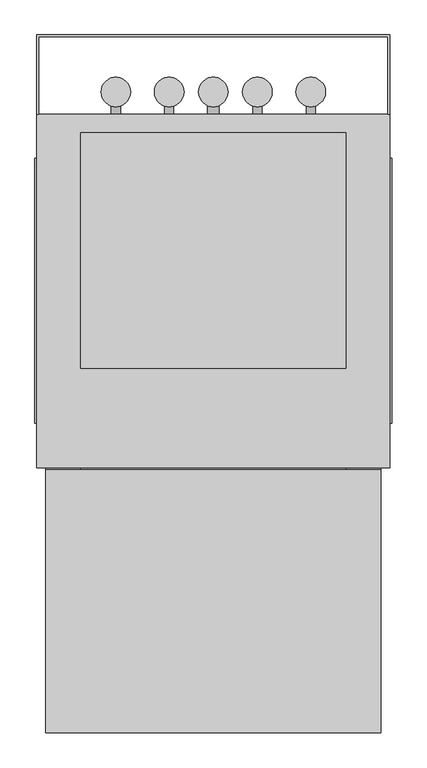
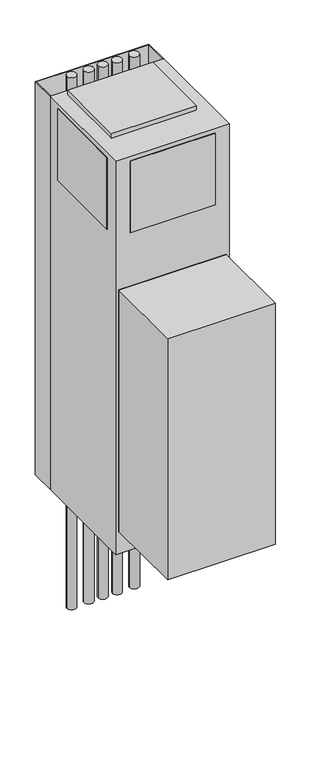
"""IFC4 building model written with IfcOpenShell, lengths in millimetres: proxy geometry, Exposed_Modular_Fan_Coil_Unit_-_MXY_-_IEC_-_4-Pipe_-_WithRisers_2022 : Size 10 - 277v/60Hz/1Ph - 4/1 Coil."""

from ifc_helpers import new_model, si_unit, point, frame, frame_2d, origin, origin_with_axes, place, context, project, spatial, polyline, circle_curve, trimmed, segment, composite_curve, outline, extrude, source, transform, mapped, element, save


def mechanical_equipment_87055151(model_context):
    return source(origin(), model_context, "Body", "SweptSolid", [
        extrude(outline(polyline([(1356.1480703, 630.3118862), (1346.2, 662.4852728), (1488.3709244, 662.4852728), (1465.3489183, 630.3118862), (1356.1480703, 630.3118862)])), frame((0.0, -371.475, 0.0), z_axis=(0.0, 1.0, 0.0), x_axis=(0.0, 0.0, 1.0)), (0.0, 0.0, 1.0), 3.175),
        extrude(outline(polyline([(1435.1473557, 669.2436058), (1431.9449632, 695.325), (1461.1738042, 695.325), (1469.2382193, 669.2436058), (1435.1473557, 669.2436058)])), frame((0.0, -371.475, 0.0), z_axis=(0.0, 1.0, 0.0), x_axis=(0.0, 0.0, 1.0)), (0.0, 0.0, 1.0), 3.175),
        extrude(outline(polyline([(1383.2838288, 695.325), (1379.6183279, 669.2436058), (1346.2, 669.2436058), (1354.8342372, 695.325), (1383.2838288, 695.325)])), frame((0.0, -371.475, 0.0), z_axis=(0.0, 1.0, 0.0), x_axis=(0.0, 0.0, 1.0)), (0.0, 0.0, 1.0), 3.175),
        extrude(outline(polyline([(1422.5989903, 695.325), (1424.8808166, 669.2436058), (1388.9432681, 669.2436058), (1391.6845331, 695.325), (1422.5989903, 695.325)])), frame((0.0, -371.475, 0.0), z_axis=(0.0, 1.0, 0.0), x_axis=(0.0, 0.0, 1.0)), (0.0, 0.0, 1.0), 3.175),
        extrude(outline(composite_curve([segment(trimmed(circle_curve(frame_2d((288.925, 282.575)), 25.4), [point((314.325, 282.575))], [point((263.525, 282.575))], False, "CARTESIAN"), True, "CONTINUOUS"), segment(trimmed(circle_curve(frame_2d((288.925, 282.575)), 25.4), [point((263.525, 282.575))], [point((314.325, 282.575))], False, "CARTESIAN"), True, "CONTINUOUS")], self_intersect=False)), frame((0.0, 0.0, -736.6), z_axis=(0.0, 0.0, 1.0), x_axis=(1.0, 0.0, 0.0)), (0.0, 0.0, 1.0), 3022.6),
        extrude(outline(composite_curve([segment(trimmed(circle_curve(frame_2d((381.0, 282.575)), 25.4), [point((406.4, 282.575))], [point((355.6, 282.575))], False, "CARTESIAN"), True, "CONTINUOUS"), segment(trimmed(circle_curve(frame_2d((381.0, 282.575)), 25.4), [point((355.6, 282.575))], [point((406.4, 282.575))], False, "CARTESIAN"), True, "CONTINUOUS")], self_intersect=False)), frame((0.0, 0.0, -736.6), z_axis=(0.0, 0.0, 1.0), x_axis=(1.0, 0.0, 0.0)), (0.0, 0.0, 1.0), 3022.6),
        extrude(outline(composite_curve([segment(trimmed(circle_curve(frame_2d((457.2, 282.575)), 25.4), [point((482.6, 282.575))], [point((431.8, 282.575))], False, "CARTESIAN"), True, "CONTINUOUS"), segment(trimmed(circle_curve(frame_2d((457.2, 282.575)), 25.4), [point((431.8, 282.575))], [point((482.6, 282.575))], False, "CARTESIAN"), True, "CONTINUOUS")], self_intersect=False)), frame((0.0, 0.0, -736.6), z_axis=(0.0, 0.0, 1.0), x_axis=(1.0, 0.0, 0.0)), (0.0, 0.0, 1.0), 3022.6),
        extrude(outline(composite_curve([segment(trimmed(circle_curve(frame_2d((533.4, 282.575)), 25.4), [point((558.8, 282.575))], [point((508.0, 282.575))], False, "CARTESIAN"), True, "CONTINUOUS"), segment(trimmed(circle_curve(frame_2d((533.4, 282.575)), 25.4), [point((508.0, 282.575))], [point((558.8, 282.575))], False, "CARTESIAN"), True, "CONTINUOUS")], self_intersect=False)), frame((0.0, 0.0, -736.6), z_axis=(0.0, 0.0, 1.0), x_axis=(1.0, 0.0, 0.0)), (0.0, 0.0, 1.0), 3022.6),
        extrude(outline(composite_curve([segment(trimmed(circle_curve(frame_2d((625.475, 282.575)), 25.4), [point((650.875, 282.575))], [point((600.075, 282.575))], False, "CARTESIAN"), True, "CONTINUOUS"), segment(trimmed(circle_curve(frame_2d((625.475, 282.575)), 25.4), [point((600.075, 282.575))], [point((650.875, 282.575))], False, "CARTESIAN"), True, "CONTINUOUS")], self_intersect=False)), frame((0.0, 0.0, -736.6), z_axis=(0.0, 0.0, 1.0), x_axis=(1.0, 0.0, 0.0)), (0.0, 0.0, 1.0), 3022.6),
        extrude(outline(polyline([(746.125, -368.3), (746.125, -822.325), (168.275, -822.325), (168.275, -368.3), (746.125, -368.3)])), frame((0.0, 0.0, 127.0), z_axis=(0.0, 0.0, 1.0), x_axis=(1.0, 0.0, 0.0)), (0.0, 0.0, 1.0), 1371.6),
        extrude(outline(polyline([(152.4, 381.0), (762.0, 381.0), (762.0, 244.475), (758.825, 244.475), (758.825, 377.825), (155.575, 377.825), (155.575, 244.475), (152.4, 244.475), (152.4, 381.0)])), origin_with_axes(), (0.0, 0.0, 1.0), 2235.2),
        extrude(outline(composite_curve([segment(trimmed(circle_curve(frame_2d((990.6, 533.4)), 7.9375), [point((990.6, 541.3375))], [point((990.6, 525.4625))], False, "CARTESIAN"), True, "CONTINUOUS"), segment(trimmed(circle_curve(frame_2d((990.6, 533.4)), 7.9375), [point((990.6, 525.4625))], [point((990.6, 541.3375))], False, "CARTESIAN"), True, "CONTINUOUS")], self_intersect=False)), frame((0.0, 244.475, 0.0), z_axis=(0.0, 1.0, 0.0), x_axis=(0.0, 0.0, 1.0)), (0.0, 0.0, 1.0), 25.4),
        extrude(outline(composite_curve([segment(trimmed(circle_curve(frame_2d((990.6, 381.0)), 7.9375), [point((990.6, 388.9375))], [point((990.6, 373.0625))], False, "CARTESIAN"), True, "CONTINUOUS"), segment(trimmed(circle_curve(frame_2d((990.6, 381.0)), 7.9375), [point((990.6, 373.0625))], [point((990.6, 388.9375))], False, "CARTESIAN"), True, "CONTINUOUS")], self_intersect=False)), frame((0.0, 244.475, 0.0), z_axis=(0.0, 1.0, 0.0), x_axis=(0.0, 0.0, 1.0)), (0.0, 0.0, 1.0), 25.4),
        extrude(outline(composite_curve([segment(trimmed(circle_curve(frame_2d((76.2, 457.2)), 9.525), [point((76.2, 466.725))], [point((76.2, 447.675))], False, "CARTESIAN"), True, "CONTINUOUS"), segment(trimmed(circle_curve(frame_2d((76.2, 457.2)), 9.525), [point((76.2, 447.675))], [point((76.2, 466.725))], False, "CARTESIAN"), True, "CONTINUOUS")], self_intersect=False)), frame((0.0, 244.475, 0.0), z_axis=(0.0, 1.0, 0.0), x_axis=(0.0, 0.0, 1.0)), (0.0, 0.0, 1.0), 25.4),
        extrude(outline(composite_curve([segment(trimmed(circle_curve(frame_2d((990.6, 625.475)), 7.9375), [point((990.6, 633.4125))], [point((990.6, 617.5375))], False, "CARTESIAN"), True, "CONTINUOUS"), segment(trimmed(circle_curve(frame_2d((990.6, 625.475)), 7.9375), [point((990.6, 617.5375))], [point((990.6, 633.4125))], False, "CARTESIAN"), True, "CONTINUOUS")], self_intersect=False)), frame((0.0, 244.475, 0.0), z_axis=(0.0, 1.0, 0.0), x_axis=(0.0, 0.0, 1.0)), (0.0, 0.0, 1.0), 25.4),
        extrude(outline(composite_curve([segment(trimmed(circle_curve(frame_2d((990.6, 288.925)), 7.9375), [point((990.6, 296.8625))], [point((990.6, 280.9875))], False, "CARTESIAN"), True, "CONTINUOUS"), segment(trimmed(circle_curve(frame_2d((990.6, 288.925)), 7.9375), [point((990.6, 280.9875))], [point((990.6, 296.8625))], False, "CARTESIAN"), True, "CONTINUOUS")], self_intersect=False)), frame((0.0, 244.475, 0.0), z_axis=(0.0, 1.0, 0.0), x_axis=(0.0, 0.0, 1.0)), (0.0, 0.0, 1.0), 25.4),
        extrude(outline(polyline([(746.125, -368.3), (168.275, -368.3), (168.275, -365.125), (746.125, -365.125), (746.125, -368.3)])), frame((0.0, 0.0, 127.0), z_axis=(0.0, 0.0, 1.0), x_axis=(1.0, 0.0, 0.0)), (0.0, 0.0, 1.0), 1371.6),
        extrude(outline(polyline([(765.175, 168.275), (765.175, -288.925), (762.0, -288.925), (762.0, 168.275), (765.175, 168.275)])), frame((0.0, 0.0, 1803.4), z_axis=(0.0, 0.0, 1.0), x_axis=(1.0, 0.0, 0.0)), (0.0, 0.0, 1.0), 406.4),
        extrude(outline(polyline([(149.225, -288.925), (149.225, 168.275), (152.4, 168.275), (152.4, -288.925), (149.225, -288.925)])), frame((0.0, 0.0, 1803.4), z_axis=(0.0, 0.0, 1.0), x_axis=(1.0, 0.0, 0.0)), (0.0, 0.0, 1.0), 406.4),
        extrude(outline(polyline([(685.8, -368.3), (228.6, -368.3), (228.6, -365.125), (685.8, -365.125), (685.8, -368.3)])), frame((0.0, 0.0, 1803.4), z_axis=(0.0, 0.0, 1.0), x_axis=(1.0, 0.0, 0.0)), (0.0, 0.0, 1.0), 406.4),
        extrude(outline(polyline([(685.8, 212.725), (685.8, -193.675), (228.6, -193.675), (228.6, 212.725), (685.8, 212.725)])), frame((0.0, 0.0, 2235.2), z_axis=(0.0, 0.0, 1.0), x_axis=(1.0, 0.0, 0.0)), (0.0, 0.0, 1.0), 25.4),
        extrude(outline(polyline([(762.0, 244.475), (762.0, -365.125), (152.4, -365.125), (152.4, 244.475), (762.0, 244.475)])), origin_with_axes(), (0.0, 0.0, 1.0), 2235.2),
    ])


if __name__ == "__main__":
    model = new_model("IFC4")
    model_context = context("Model", 3, world=origin())
    ifc_project = project(units=[si_unit("LENGTHUNIT", "METRE", prefix="MILLI")], contexts=[model_context])
    site = spatial("IfcSite", under=ifc_project)
    building = spatial("IfcBuilding", under=site)
    placement = place(None, origin())
    mechanical_equipment_shape = mechanical_equipment_87055151(model_context)
    element("IfcBuildingElementProxy", 1, Name="Exposed_Modular_Fan_Coil_Unit_-_MXY_-_IEC_-_4-Pipe_-_WithRisers_2022 : Size 10 - 277v/60Hz/1Ph - 4/1 Coil", ObjectType="Exposed_Modular_Fan_Coil_Unit_-_MXY_-_IEC_-_4-Pipe_-_WithRisers_2022 : Size 10 - 277v/60Hz/1Ph - 4/1 Coil", at=placement, inside=building, context=model_context, shape_type="MappedRepresentation", body=[
        mapped(mechanical_equipment_shape, transform((0.0, 0.0, 0.0), x_axis=(1.0, 0.0, 0.0), y_axis=(0.0, 1.0, 0.0), z_axis=(0.0, 0.0, 1.0))),
    ])
    save(model, "model.ifc")
